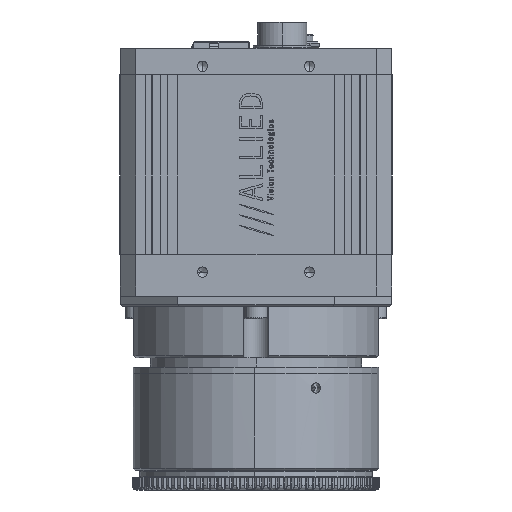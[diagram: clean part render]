
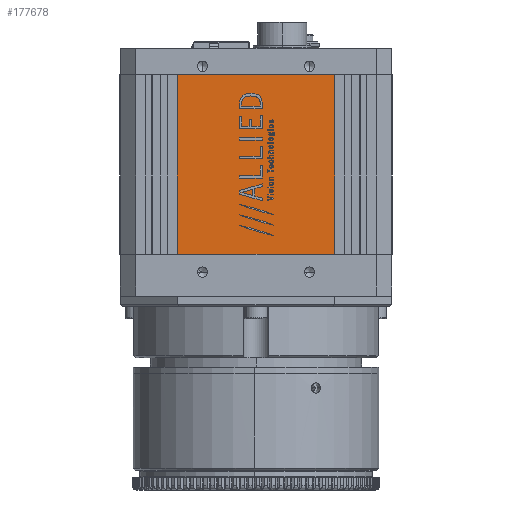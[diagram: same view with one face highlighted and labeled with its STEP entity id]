
A CAD part, left-side view. The second image highlights one B-rep face of the part: STEP entity #177678.
In plain terms, the highlighted planar face has unit normal (-1, 0, 0).
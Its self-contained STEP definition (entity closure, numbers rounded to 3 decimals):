
#520 = FACE_OUTER_BOUND ( 'NONE', #168929, .T. ) ;
#41389 = DIRECTION ( 'NONE',  ( 0., 1., 0. ) ) ;
#41442 = CARTESIAN_POINT ( 'NONE',  ( -32.572, 19.117, 43.688 ) ) ;
#43716 = EDGE_CURVE ( 'NONE', #125516, #173939, #73276, .T. ) ;
#51498 = CARTESIAN_POINT ( 'NONE',  ( -32.572, -19.117, 0. ) ) ;
#52800 = ORIENTED_EDGE ( 'NONE', *, *, #68653, .T. ) ;
#62811 = DIRECTION ( 'NONE',  ( 0., 0., -1. ) ) ;
#68653 = EDGE_CURVE ( 'NONE', #109243, #105191, #148416, .T. ) ;
#73276 = LINE ( 'NONE', #41442, #224499 ) ;
#75160 = LINE ( 'NONE', #223999, #128270 ) ;
#93109 = ORIENTED_EDGE ( 'NONE', *, *, #94966, .T. ) ;
#94966 = EDGE_CURVE ( 'NONE', #105191, #125516, #75160, .T. ) ;
#95508 = VECTOR ( 'NONE', #233063, 1000. ) ;
#96313 = LINE ( 'NONE', #141396, #143024 ) ;
#97457 = PLANE ( 'NONE',  #239348 ) ;
#105191 = VERTEX_POINT ( 'NONE', #51498 ) ;
#109243 = VERTEX_POINT ( 'NONE', #111335 ) ;
#111335 = CARTESIAN_POINT ( 'NONE',  ( -32.572, 19.117, 0. ) ) ;
#112334 = CARTESIAN_POINT ( 'NONE',  ( -32.572, 19.117, 43.688 ) ) ;
#119202 = CARTESIAN_POINT ( 'NONE',  ( -32.572, 19.117, -93.564 ) ) ;
#125516 = VERTEX_POINT ( 'NONE', #191822 ) ;
#128270 = VECTOR ( 'NONE', #223195, 1000. ) ;
#135351 = EDGE_CURVE ( 'NONE', #173939, #109243, #96313, .T. ) ;
#139164 = DIRECTION ( 'NONE',  ( 0., 0., 1. ) ) ;
#141396 = CARTESIAN_POINT ( 'NONE',  ( -32.572, 19.117, -93.564 ) ) ;
#143024 = VECTOR ( 'NONE', #62811, 1000. ) ;
#148416 = LINE ( 'NONE', #232547, #95508 ) ;
#150591 = ORIENTED_EDGE ( 'NONE', *, *, #135351, .T. ) ;
#168929 = EDGE_LOOP ( 'NONE', ( #245497, #150591, #52800, #93109 ) ) ;
#173939 = VERTEX_POINT ( 'NONE', #112334 ) ;
#177678 = ADVANCED_FACE ( 'NONE', ( #520 ), #97457, .T. ) ;
#191822 = CARTESIAN_POINT ( 'NONE',  ( -32.572, -19.117, 43.688 ) ) ;
#223195 = DIRECTION ( 'NONE',  ( 0., 0., 1. ) ) ;
#223999 = CARTESIAN_POINT ( 'NONE',  ( -32.572, -19.117, -93.564 ) ) ;
#224499 = VECTOR ( 'NONE', #41389, 1000. ) ;
#232547 = CARTESIAN_POINT ( 'NONE',  ( -32.572, 19.117, 0. ) ) ;
#233063 = DIRECTION ( 'NONE',  ( 0., -1., 0. ) ) ;
#239348 = AXIS2_PLACEMENT_3D ( 'NONE', #119202, #254656, #139164 ) ;
#245497 = ORIENTED_EDGE ( 'NONE', *, *, #43716, .T. ) ;
#254656 = DIRECTION ( 'NONE',  ( -1., 0., 0. ) ) ;
